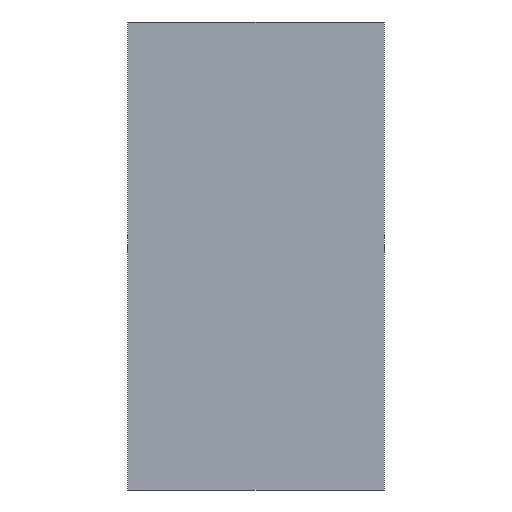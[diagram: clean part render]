
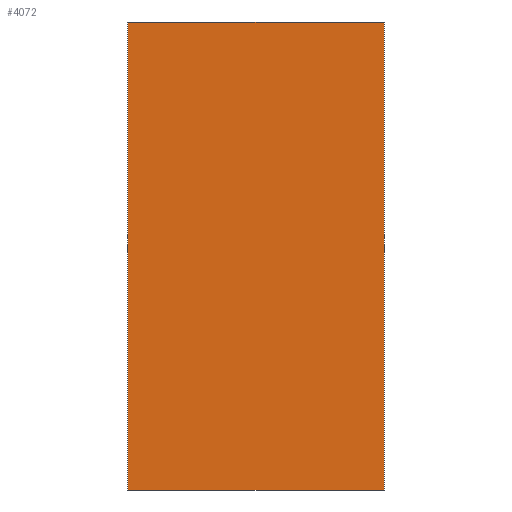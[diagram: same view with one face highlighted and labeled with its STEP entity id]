
A CAD part, front view. The second image highlights one B-rep face of the part: STEP entity #4072.
In plain terms, the highlighted planar face has unit normal (0, -1, 0).
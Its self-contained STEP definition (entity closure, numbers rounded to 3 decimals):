
#1554=DIRECTION('',(0.,0.,1.));
#1555=VECTOR('',#1554,210.);
#1556=CARTESIAN_POINT('',(57.5,-12.,-145.));
#1557=LINE('',#1556,#1555);
#1558=DIRECTION('',(1.,0.,0.));
#1559=VECTOR('',#1558,115.);
#1560=CARTESIAN_POINT('',(-57.5,-12.,-145.));
#1561=LINE('',#1560,#1559);
#1562=DIRECTION('',(0.,0.,-1.));
#1563=VECTOR('',#1562,210.);
#1564=CARTESIAN_POINT('',(-57.5,-12.,65.));
#1565=LINE('',#1564,#1563);
#1566=DIRECTION('',(-1.,0.,0.));
#1567=VECTOR('',#1566,115.);
#1568=CARTESIAN_POINT('',(57.5,-12.,65.));
#1569=LINE('',#1568,#1567);
#2345=CARTESIAN_POINT('',(57.5,-12.,-145.));
#2346=CARTESIAN_POINT('',(57.5,-12.,65.));
#2347=VERTEX_POINT('',#2345);
#2348=VERTEX_POINT('',#2346);
#2349=CARTESIAN_POINT('',(-57.5,-12.,65.));
#2350=CARTESIAN_POINT('',(-57.5,-12.,-145.));
#2351=VERTEX_POINT('',#2349);
#2352=VERTEX_POINT('',#2350);
#4061=CARTESIAN_POINT('',(0.,-12.,-40.));
#4062=DIRECTION('',(0.,-1.,0.));
#4063=DIRECTION('',(-1.,0.,0.));
#4064=AXIS2_PLACEMENT_3D('',#4061,#4062,#4063);
#4065=PLANE('',#4064);
#4066=ORIENTED_EDGE('',*,*,#4013,.F.);
#4067=ORIENTED_EDGE('',*,*,#4028,.F.);
#4068=ORIENTED_EDGE('',*,*,#4042,.F.);
#4069=ORIENTED_EDGE('',*,*,#4055,.F.);
#4070=EDGE_LOOP('',(#4066,#4067,#4068,#4069));
#4071=FACE_OUTER_BOUND('',#4070,.F.);
#4072=ADVANCED_FACE('',(#4071),#4065,.T.);
#4013=EDGE_CURVE('',#2347,#2348,#1557,.T.);
#4028=EDGE_CURVE('',#2352,#2347,#1561,.T.);
#4042=EDGE_CURVE('',#2351,#2352,#1565,.T.);
#4055=EDGE_CURVE('',#2348,#2351,#1569,.T.);
